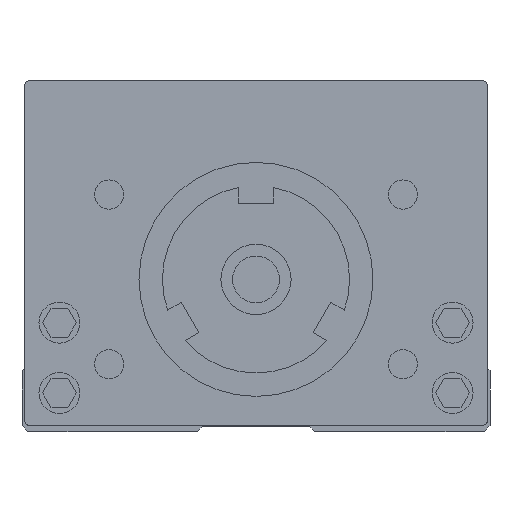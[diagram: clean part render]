
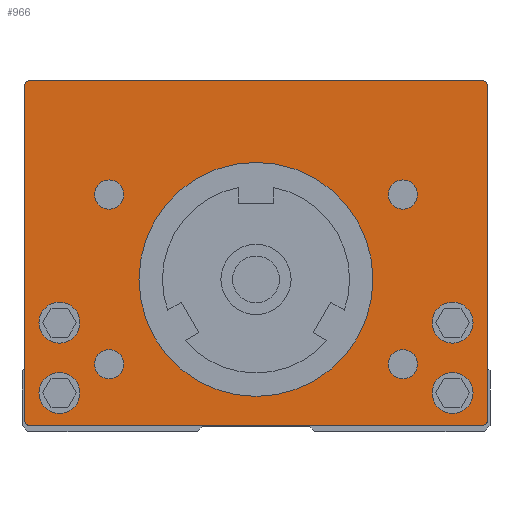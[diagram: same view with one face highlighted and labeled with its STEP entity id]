
A CAD part, front view. The second image highlights one B-rep face of the part: STEP entity #966.
In plain terms, the highlighted planar face has unit normal (0, -1, 0).
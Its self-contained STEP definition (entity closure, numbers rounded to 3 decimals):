
#646=FACE_BOUND('',#2246,.T.);
#647=FACE_BOUND('',#2247,.T.);
#648=FACE_BOUND('',#2248,.T.);
#649=FACE_BOUND('',#2249,.T.);
#650=FACE_BOUND('',#2250,.T.);
#651=FACE_BOUND('',#2251,.T.);
#652=FACE_BOUND('',#2252,.T.);
#653=FACE_BOUND('',#2253,.T.);
#654=FACE_BOUND('',#2254,.T.);
#655=FACE_BOUND('',#2255,.T.);
#966=ADVANCED_FACE('',(#646,#647,#648,#649,#650,#651,#652,#653,#654,#655),
#1447,.F.);
#1447=PLANE('',#9467);
#2246=EDGE_LOOP('',(#3479,#3480,#3481,#3482,#3483,#3484,#3485,#3486));
#2247=EDGE_LOOP('',(#3487));
#2248=EDGE_LOOP('',(#3488));
#2249=EDGE_LOOP('',(#3489));
#2250=EDGE_LOOP('',(#3490));
#2251=EDGE_LOOP('',(#3491));
#2252=EDGE_LOOP('',(#3492));
#2253=EDGE_LOOP('',(#3493));
#2254=EDGE_LOOP('',(#3494));
#2255=EDGE_LOOP('',(#3495));
#2852=CIRCLE('',#9393,1.25);
#2853=CIRCLE('',#9395,1.25);
#2854=CIRCLE('',#9397,1.25);
#2855=CIRCLE('',#9399,1.25);
#2861=CIRCLE('',#9409,1.75);
#2863=CIRCLE('',#9412,1.75);
#2865=CIRCLE('',#9415,1.75);
#2867=CIRCLE('',#9418,1.75);
#2869=CIRCLE('',#9421,10.);
#2885=CIRCLE('',#9450,0.5);
#2891=CIRCLE('',#9462,0.5);
#2892=CIRCLE('',#9464,0.5);
#2893=CIRCLE('',#9466,0.5);
#3479=ORIENTED_EDGE('',*,*,#6648,.F.);
#3480=ORIENTED_EDGE('',*,*,#6644,.F.);
#3481=ORIENTED_EDGE('',*,*,#6615,.F.);
#3482=ORIENTED_EDGE('',*,*,#6630,.F.);
#3483=ORIENTED_EDGE('',*,*,#6649,.F.);
#3484=ORIENTED_EDGE('',*,*,#6647,.F.);
#3485=ORIENTED_EDGE('',*,*,#6650,.F.);
#3486=ORIENTED_EDGE('',*,*,#6651,.F.);
#3487=ORIENTED_EDGE('',*,*,#6585,.F.);
#3488=ORIENTED_EDGE('',*,*,#6583,.F.);
#3489=ORIENTED_EDGE('',*,*,#6587,.F.);
#3490=ORIENTED_EDGE('',*,*,#6589,.F.);
#3491=ORIENTED_EDGE('',*,*,#6575,.F.);
#3492=ORIENTED_EDGE('',*,*,#6574,.F.);
#3493=ORIENTED_EDGE('',*,*,#6573,.F.);
#3494=ORIENTED_EDGE('',*,*,#6572,.F.);
#3495=ORIENTED_EDGE('',*,*,#6591,.F.);
#5697=VERTEX_POINT('',#13124);
#5698=VERTEX_POINT('',#13127);
#5699=VERTEX_POINT('',#13130);
#5700=VERTEX_POINT('',#13133);
#5706=VERTEX_POINT('',#13151);
#5708=VERTEX_POINT('',#13156);
#5710=VERTEX_POINT('',#13161);
#5712=VERTEX_POINT('',#13166);
#5714=VERTEX_POINT('',#13171);
#5732=VERTEX_POINT('',#13221);
#5733=VERTEX_POINT('',#13222);
#5740=VERTEX_POINT('',#13248);
#5746=VERTEX_POINT('',#13284);
#5747=VERTEX_POINT('',#13288);
#5748=VERTEX_POINT('',#13290);
#5749=VERTEX_POINT('',#13294);
#5750=VERTEX_POINT('',#13297);
#6572=EDGE_CURVE('',#5697,#5697,#2852,.T.);
#6573=EDGE_CURVE('',#5698,#5698,#2853,.T.);
#6574=EDGE_CURVE('',#5699,#5699,#2854,.T.);
#6575=EDGE_CURVE('',#5700,#5700,#2855,.T.);
#6583=EDGE_CURVE('',#5706,#5706,#2861,.T.);
#6585=EDGE_CURVE('',#5708,#5708,#2863,.T.);
#6587=EDGE_CURVE('',#5710,#5710,#2865,.T.);
#6589=EDGE_CURVE('',#5712,#5712,#2867,.T.);
#6591=EDGE_CURVE('',#5714,#5714,#2869,.T.);
#6615=EDGE_CURVE('',#5732,#5733,#7764,.T.);
#6630=EDGE_CURVE('',#5740,#5732,#2885,.T.);
#6644=EDGE_CURVE('',#5733,#5746,#2891,.T.);
#6647=EDGE_CURVE('',#5748,#5747,#2892,.T.);
#6648=EDGE_CURVE('',#5746,#5749,#7781,.T.);
#6649=EDGE_CURVE('',#5747,#5740,#7782,.T.);
#6650=EDGE_CURVE('',#5750,#5748,#7783,.T.);
#6651=EDGE_CURVE('',#5749,#5750,#2893,.T.);
#7764=LINE('',#13220,#8597);
#7781=LINE('',#13293,#8614);
#7782=LINE('',#13295,#8615);
#7783=LINE('',#13296,#8616);
#8597=VECTOR('',#10570,1.);
#8614=VECTOR('',#10641,1.);
#8615=VECTOR('',#10642,1.);
#8616=VECTOR('',#10643,1.);
#9393=AXIS2_PLACEMENT_3D('',#13123,#10462,#10463);
#9395=AXIS2_PLACEMENT_3D('',#13126,#10466,#10467);
#9397=AXIS2_PLACEMENT_3D('',#13129,#10470,#10471);
#9399=AXIS2_PLACEMENT_3D('',#13132,#10474,#10475);
#9409=AXIS2_PLACEMENT_3D('',#13150,#10496,#10497);
#9412=AXIS2_PLACEMENT_3D('',#13155,#10502,#10503);
#9415=AXIS2_PLACEMENT_3D('',#13160,#10508,#10509);
#9418=AXIS2_PLACEMENT_3D('',#13165,#10514,#10515);
#9421=AXIS2_PLACEMENT_3D('',#13170,#10520,#10521);
#9450=AXIS2_PLACEMENT_3D('',#13249,#10601,#10602);
#9462=AXIS2_PLACEMENT_3D('',#13285,#10631,#10632);
#9464=AXIS2_PLACEMENT_3D('',#13291,#10637,#10638);
#9466=AXIS2_PLACEMENT_3D('',#13298,#10644,#10645);
#9467=AXIS2_PLACEMENT_3D('',#13299,#10646,#10647);
#10462=DIRECTION('',(0.,-1.,0.));
#10463=DIRECTION('',(1.,0.,0.));
#10466=DIRECTION('',(0.,-1.,0.));
#10467=DIRECTION('',(1.,0.,0.));
#10470=DIRECTION('',(0.,-1.,0.));
#10471=DIRECTION('',(1.,0.,0.));
#10474=DIRECTION('',(0.,-1.,0.));
#10475=DIRECTION('',(1.,0.,0.));
#10496=DIRECTION('',(0.,-1.,0.));
#10497=DIRECTION('',(1.,0.,0.));
#10502=DIRECTION('',(0.,-1.,0.));
#10503=DIRECTION('',(1.,0.,0.));
#10508=DIRECTION('',(0.,-1.,0.));
#10509=DIRECTION('',(1.,0.,0.));
#10514=DIRECTION('',(0.,-1.,0.));
#10515=DIRECTION('',(1.,0.,0.));
#10520=DIRECTION('',(0.,-1.,0.));
#10521=DIRECTION('',(1.,0.,0.));
#10570=DIRECTION('',(1.,0.,0.));
#10601=DIRECTION('',(0.,1.,0.));
#10602=DIRECTION('',(-1.,0.,0.));
#10631=DIRECTION('',(0.,1.,0.));
#10632=DIRECTION('',(0.,0.,1.));
#10637=DIRECTION('',(0.,1.,0.));
#10638=DIRECTION('',(0.,0.,-1.));
#10641=DIRECTION('',(0.,0.,-1.));
#10642=DIRECTION('',(0.,0.,1.));
#10643=DIRECTION('',(-1.,0.,0.));
#10644=DIRECTION('',(0.,1.,0.));
#10645=DIRECTION('',(1.,0.,0.));
#10646=DIRECTION('',(0.,1.,0.));
#10647=DIRECTION('',(1.,0.,0.));
#13123=CARTESIAN_POINT('',(12.557,50.,5.25));
#13124=CARTESIAN_POINT('',(13.807,50.,5.25));
#13126=CARTESIAN_POINT('',(-12.557,50.,5.25));
#13127=CARTESIAN_POINT('',(-11.307,50.,5.25));
#13129=CARTESIAN_POINT('',(-12.557,50.,19.75));
#13130=CARTESIAN_POINT('',(-11.307,50.,19.75));
#13132=CARTESIAN_POINT('',(12.557,50.,19.75));
#13133=CARTESIAN_POINT('',(13.807,50.,19.75));
#13150=CARTESIAN_POINT('',(16.8,50.,2.8));
#13151=CARTESIAN_POINT('',(18.55,50.,2.8));
#13155=CARTESIAN_POINT('',(16.8,50.,8.8));
#13156=CARTESIAN_POINT('',(18.55,50.,8.8));
#13160=CARTESIAN_POINT('',(-16.8,50.,2.8));
#13161=CARTESIAN_POINT('',(-15.05,50.,2.8));
#13165=CARTESIAN_POINT('',(-16.8,50.,8.8));
#13166=CARTESIAN_POINT('',(-15.05,50.,8.8));
#13170=CARTESIAN_POINT('',(0.,50.,12.5));
#13171=CARTESIAN_POINT('',(10.,50.,12.5));
#13220=CARTESIAN_POINT('',(-19.3,50.,29.5));
#13221=CARTESIAN_POINT('',(-19.3,50.,29.5));
#13222=CARTESIAN_POINT('',(19.3,50.,29.5));
#13248=CARTESIAN_POINT('',(-19.8,50.,29.));
#13249=CARTESIAN_POINT('',(-19.3,50.,29.));
#13284=CARTESIAN_POINT('',(19.8,50.,29.));
#13285=CARTESIAN_POINT('',(19.3,50.,29.));
#13288=CARTESIAN_POINT('',(-19.8,50.,0.5));
#13290=CARTESIAN_POINT('',(-19.3,50.,0.));
#13291=CARTESIAN_POINT('',(-19.3,50.,0.5));
#13293=CARTESIAN_POINT('',(19.8,50.,29.));
#13294=CARTESIAN_POINT('',(19.8,50.,0.5));
#13295=CARTESIAN_POINT('',(-19.8,50.,0.5));
#13296=CARTESIAN_POINT('',(19.3,50.,0.));
#13297=CARTESIAN_POINT('',(19.3,50.,0.));
#13298=CARTESIAN_POINT('',(19.3,50.,0.5));
#13299=CARTESIAN_POINT('',(19.8,50.,29.5));
